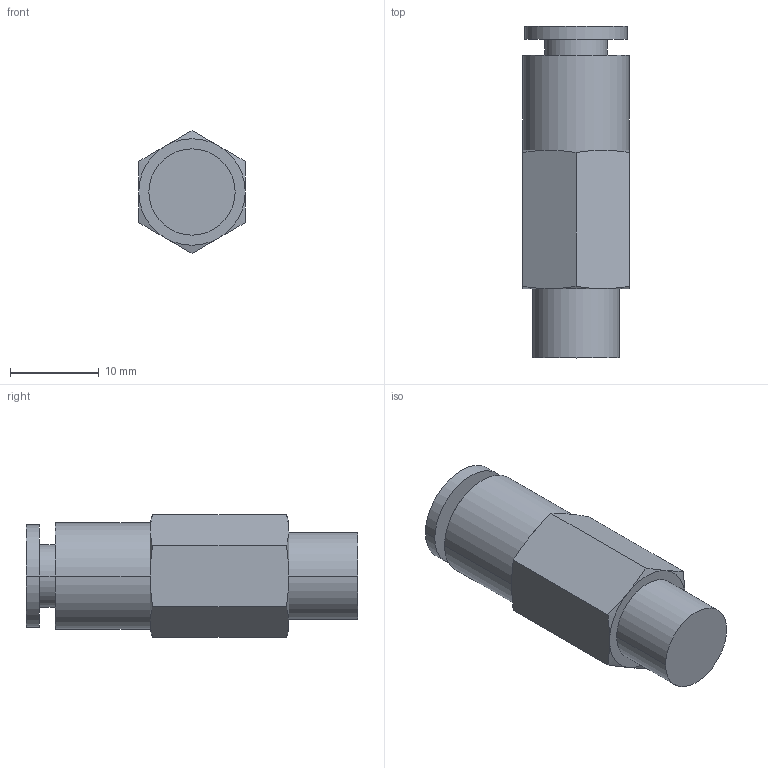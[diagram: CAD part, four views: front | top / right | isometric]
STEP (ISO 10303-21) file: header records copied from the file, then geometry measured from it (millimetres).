
FILE_DESCRIPTION( ( '' ), '1' );
FILE_NAME( 'G:/SMC狟婥/KCH06-01S.stp', '2023-03-08T06:00:08', ( '' ), ( '' ), ' ', ' ', ' ' );
FILE_SCHEMA( ( 'CONFIG_CONTROL_DESIGN' ) );
Length unit declared in the file: millimetre
Products named in the file (1): 1
Bounding box: 12 x 37.4 x 13.86 mm (x, y, z)
Volume: 3421.4 mm3; surface area: 2116.1 mm2
Topology: 1 solids, 1 shells, 34 faces, 70 edges, 42 vertices
Faces by surface type: plane 12, cone 12, cylinder 10
Entity records: 912 total; most frequent: CARTESIAN_POINT 195, DIRECTION 146, ORIENTED_EDGE 140, EDGE_CURVE 70, AXIS2_PLACEMENT_3D 65, VERTEX_POINT 42, EDGE_LOOP 38, ADVANCED_FACE 34
